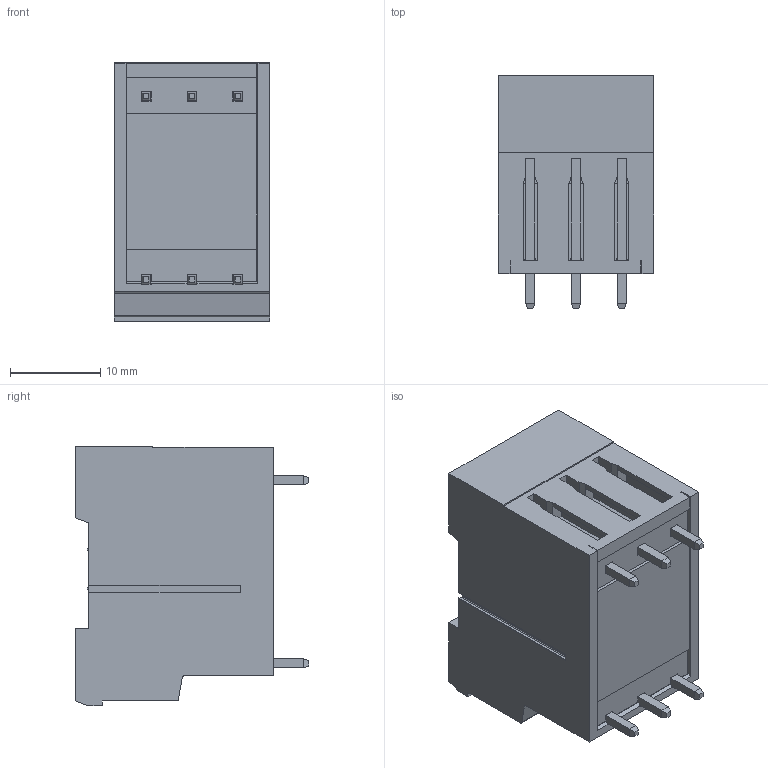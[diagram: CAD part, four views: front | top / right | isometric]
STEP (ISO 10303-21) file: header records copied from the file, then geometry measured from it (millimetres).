
FILE_DESCRIPTION((''),'2;1');
FILE_NAME('3PIN','2022-06-15T',('renkang.li'),(''),'CREO PARAMETRIC BY PTC INC, 2016260','CREO PARAMETRIC BY PTC INC, 2016260','');
FILE_SCHEMA(('CONFIG_CONTROL_DESIGN'));
Length unit declared in the file: millimetre
Products named in the file (1): 3PIN
Bounding box: 17.24 x 25.9 x 28.84 mm (x, y, z)
Volume: 4013.2 mm3; surface area: 7353.2 mm2
Topology: 1 solids, 5 shells, 639 faces, 1724 edges, 1098 vertices
Faces by surface type: plane 496, cylinder 109, cone 18, bspline 8, torus 8
Entity records: 20057 total; most frequent: CARTESIAN_POINT 3910, ORIENTED_EDGE 3448, DIRECTION 3178, EDGE_CURVE 1724, VECTOR 1452, LINE 1452, VERTEX_POINT 1098, AXIS2_PLACEMENT_3D 863
